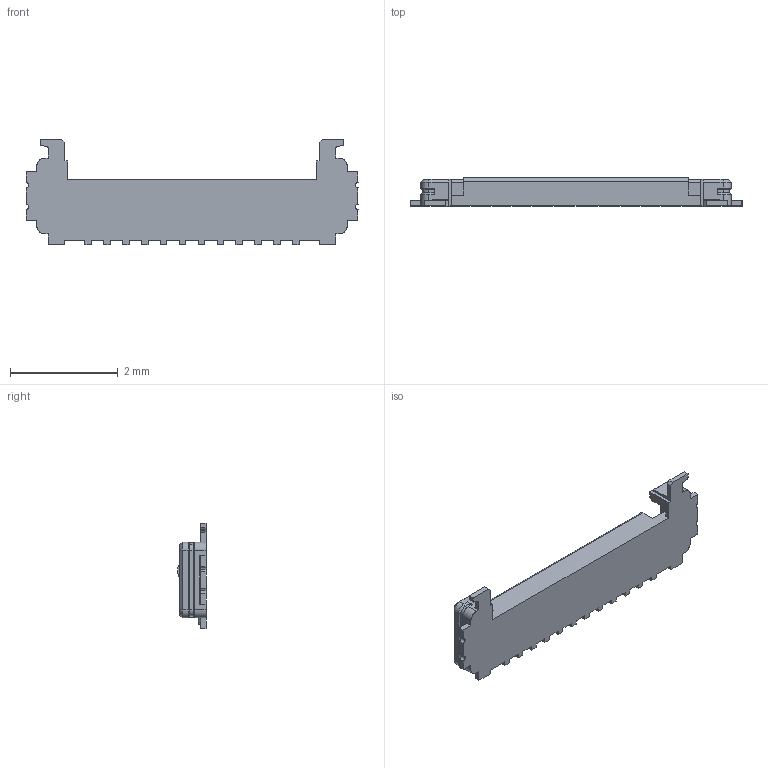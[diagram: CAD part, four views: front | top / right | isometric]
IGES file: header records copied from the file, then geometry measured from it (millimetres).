
Start section: SolidWorks IGES file using analytic representation for surfaces
Global section: file name: 133HP:\個人用\福岡開発課\06 技術共有資料\CABLINE-UY\02_リクエスト\260629 HP用モデル\20854-012E-xx-#C CABLINE-UY RCEPTACLE IGES R8 ALL.IGS; native system: SolidWorks 2025; preprocessor: SolidWorks 2025; author: 09774; date: 260629.180453; units: millimetre
Bounding box: 6.15 x 0.52 x 1.95 mm (x, y, z)
Surface area: 27.2 mm2 (no closed solid volume)
Topology: 0 solids, 0 shells, 227 faces, 1324 edges, 1324 vertices
Faces by surface type: bspline 166, revolution 61
